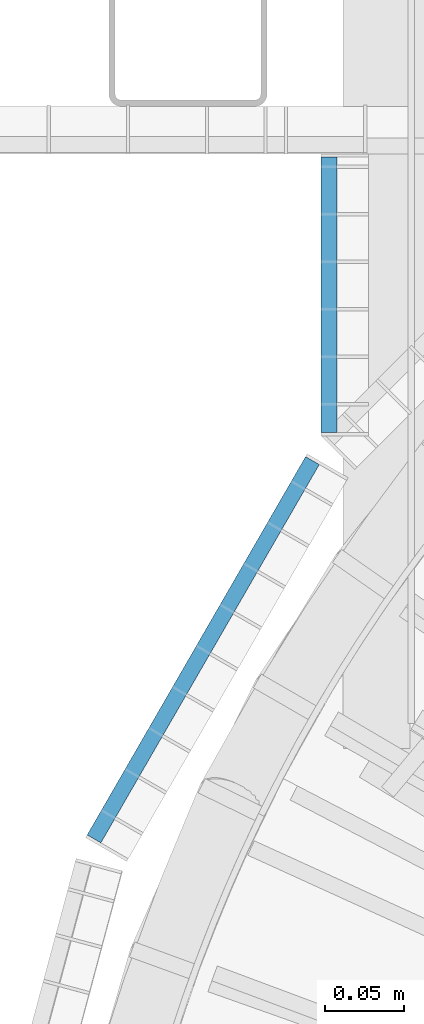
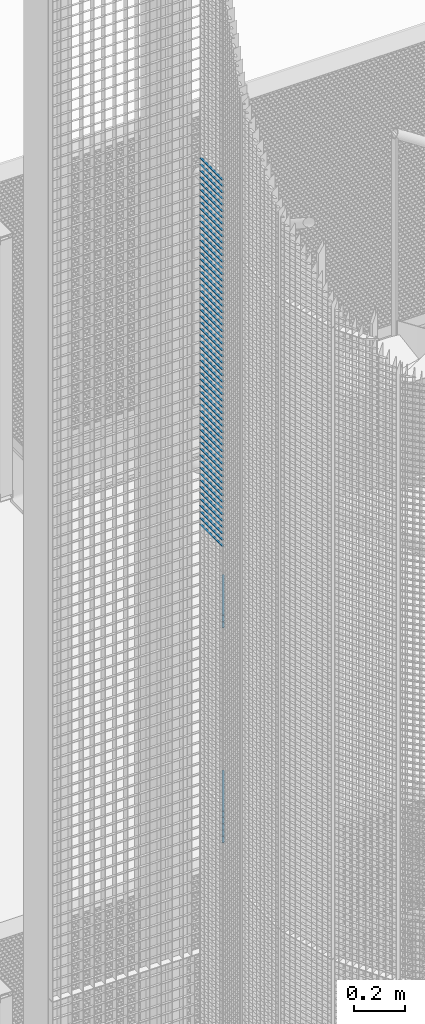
# One storey, part 193 of 1183: 68 beams, 2 elements without a shape of their own.
"""IFC2X3 building model written with IfcOpenShell, lengths in millimetres."""

from ifc_helpers import new_model, si_unit, frame, origin_with_axes, origin_2d_with_axis, place, context, subcontext, project, spatial, rectangle, extrude, material, type_object, element, aggregate, save


model = new_model("IFC2X3")

# Units and contexts
model_context = context("Model", 3, precision=1e-05, world=origin_with_axes())
body_context = subcontext(model_context, "Body", "Model", "MODEL_VIEW")
ifc_project = project(units=[si_unit("LENGTHUNIT", "METRE", prefix="MILLI"), si_unit("AREAUNIT", "SQUARE_METRE"), si_unit("VOLUMEUNIT", "CUBIC_METRE"), si_unit("MASSUNIT", "GRAM", prefix="KILO"), si_unit("TIMEUNIT", "SECOND"), si_unit("PLANEANGLEUNIT", "RADIAN"), si_unit("SOLIDANGLEUNIT", "STERADIAN"), si_unit("THERMODYNAMICTEMPERATUREUNIT", "DEGREE_CELSIUS"), si_unit("LUMINOUSINTENSITYUNIT", "LUMEN")], contexts=[model_context])

# Site, building, storey
site_placement = place(None, origin_with_axes())
site = spatial("IfcSite", under=ifc_project, at=site_placement, Name="Undefined", CompositionType="ELEMENT")
building_placement = place(site_placement, origin_with_axes())
building = spatial("IfcBuilding", under=site, at=building_placement, Name="Undefined", CompositionType="ELEMENT")
storey_placement = place(building_placement, origin_with_axes())
storey = spatial("IfcBuildingStorey", under=building, at=storey_placement, Name="Undefined", CompositionType="ELEMENT", Elevation=0.0)

# Assembly, beams
assembly_1_placement = place(storey_placement, origin_with_axes())
assembly_1 = element("IfcElementAssembly", 1, at=assembly_1_placement, inside=storey, Name="BORDURE", AssemblyPlace="NOTDEFINED", PredefinedType="NOTDEFINED")
ifc_material = material(Name="STEEL/S235JR")
beam_type = type_object("IfcBeamType", Name="PL2*10", PredefinedType="NOTDEFINED")
beam_1_placement = place(assembly_1_placement, frame((-895.30396491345, 676.24804453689, 12180.0), z_axis=(-0.866025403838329, 0.499999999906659, 0.0), x_axis=(-0.49999999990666, -0.866025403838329, 0.0)))
beam_1 = element("IfcBeam", 2, at=beam_1_placement, type_object=beam_type, material=ifc_material, Name="ENTRETOISE", context=body_context, shape_type="SweptSolid", body=[
    extrude(rectangle(XDim=2.0, YDim=10.0, at=origin_2d_with_axis()), frame((275.999999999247, 9.09494701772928e-13, 1.53210777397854e-14), z_axis=(-1.0, 0.0, 0.0), x_axis=(0.0, -1.0, 0.0)), (0.0, 0.0, 1.0), 276.0),
])
beam_2_placement = place(assembly_1_placement, frame((-895.303964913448, 676.248044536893, 13050.0), z_axis=(-0.866025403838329, 0.499999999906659, 0.0), x_axis=(-0.49999999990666, -0.866025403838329, 0.0)))
beam_2 = element("IfcBeam", 3, at=beam_2_placement, type_object=beam_type, material=ifc_material, Name="ENTRETOISE", context=body_context, shape_type="SweptSolid", body=[
    extrude(rectangle(XDim=2.0, YDim=10.0, at=origin_2d_with_axis()), frame((275.999999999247, 9.09494701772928e-13, 1.53210777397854e-14), z_axis=(-1.0, 0.0, 0.0), x_axis=(0.0, -1.0, 0.0)), (0.0, 0.0, 1.0), 276.0),
])
beam_3_placement = place(assembly_1_placement, frame((-895.30396491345, 676.24804453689, 12150.0), z_axis=(-0.866025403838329, 0.499999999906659, 0.0), x_axis=(-0.49999999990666, -0.866025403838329, 0.0)))
beam_3 = element("IfcBeam", 4, at=beam_3_placement, type_object=beam_type, material=ifc_material, Name="ENTRETOISE", context=body_context, shape_type="SweptSolid", body=[
    extrude(rectangle(XDim=2.0, YDim=10.0, at=origin_2d_with_axis()), frame((275.999999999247, 9.09494701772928e-13, 1.53210777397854e-14), z_axis=(-1.0, 0.0, 0.0), x_axis=(0.0, -1.0, 0.0)), (0.0, 0.0, 1.0), 276.0),
])
beam_4_placement = place(assembly_1_placement, frame((-895.30396491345, 676.24804453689, 12120.0), z_axis=(-0.866025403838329, 0.499999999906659, 0.0), x_axis=(-0.49999999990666, -0.866025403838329, 0.0)))
beam_4 = element("IfcBeam", 5, at=beam_4_placement, type_object=beam_type, material=ifc_material, Name="ENTRETOISE", context=body_context, shape_type="SweptSolid", body=[
    extrude(rectangle(XDim=2.0, YDim=10.0, at=origin_2d_with_axis()), frame((275.999999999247, 9.09494701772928e-13, 1.53210777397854e-14), z_axis=(-1.0, 0.0, 0.0), x_axis=(0.0, -1.0, 0.0)), (0.0, 0.0, 1.0), 276.0),
])
beam_5_placement = place(assembly_1_placement, frame((-895.303964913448, 676.248044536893, 13080.0), z_axis=(-0.866025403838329, 0.499999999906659, 0.0), x_axis=(-0.49999999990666, -0.866025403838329, 0.0)))
beam_5 = element("IfcBeam", 6, at=beam_5_placement, type_object=beam_type, material=ifc_material, Name="ENTRETOISE", context=body_context, shape_type="SweptSolid", body=[
    extrude(rectangle(XDim=2.0, YDim=10.0, at=origin_2d_with_axis()), frame((275.999999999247, 9.09494701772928e-13, 1.53210777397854e-14), z_axis=(-1.0, 0.0, 0.0), x_axis=(0.0, -1.0, 0.0)), (0.0, 0.0, 1.0), 276.0),
])
beam_6_placement = place(assembly_1_placement, frame((-895.30396491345, 676.24804453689, 12090.0), z_axis=(-0.866025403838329, 0.499999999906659, 0.0), x_axis=(-0.49999999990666, -0.866025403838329, 0.0)))
beam_6 = element("IfcBeam", 7, at=beam_6_placement, type_object=beam_type, material=ifc_material, Name="ENTRETOISE", context=body_context, shape_type="SweptSolid", body=[
    extrude(rectangle(XDim=2.0, YDim=10.0, at=origin_2d_with_axis()), frame((275.999999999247, 9.09494701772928e-13, 1.53210777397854e-14), z_axis=(-1.0, 0.0, 0.0), x_axis=(0.0, -1.0, 0.0)), (0.0, 0.0, 1.0), 276.0),
])
beam_7_placement = place(assembly_1_placement, frame((-895.30396491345, 676.24804453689, 12060.0), z_axis=(-0.866025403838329, 0.499999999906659, 0.0), x_axis=(-0.49999999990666, -0.866025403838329, 0.0)))
beam_7 = element("IfcBeam", 8, at=beam_7_placement, type_object=beam_type, material=ifc_material, Name="ENTRETOISE", context=body_context, shape_type="SweptSolid", body=[
    extrude(rectangle(XDim=2.0, YDim=10.0, at=origin_2d_with_axis()), frame((275.999999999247, 9.09494701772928e-13, 1.53210777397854e-14), z_axis=(-1.0, 0.0, 0.0), x_axis=(0.0, -1.0, 0.0)), (0.0, 0.0, 1.0), 276.0),
])
beam_8_placement = place(assembly_1_placement, frame((-895.303964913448, 676.248044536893, 13110.0), z_axis=(-0.866025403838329, 0.499999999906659, 0.0), x_axis=(-0.49999999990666, -0.866025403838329, 0.0)))
beam_8 = element("IfcBeam", 9, at=beam_8_placement, type_object=beam_type, material=ifc_material, Name="ENTRETOISE", context=body_context, shape_type="SweptSolid", body=[
    extrude(rectangle(XDim=2.0, YDim=10.0, at=origin_2d_with_axis()), frame((275.999999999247, 9.09494701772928e-13, 1.53210777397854e-14), z_axis=(-1.0, 0.0, 0.0), x_axis=(0.0, -1.0, 0.0)), (0.0, 0.0, 1.0), 276.0),
])
beam_9_placement = place(assembly_1_placement, frame((-895.30396491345, 676.248044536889, 12030.0), z_axis=(-0.866025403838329, 0.499999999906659, 0.0), x_axis=(-0.49999999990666, -0.866025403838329, 0.0)))
beam_9 = element("IfcBeam", 10, at=beam_9_placement, type_object=beam_type, material=ifc_material, Name="ENTRETOISE", context=body_context, shape_type="SweptSolid", body=[
    extrude(rectangle(XDim=2.0, YDim=10.0, at=origin_2d_with_axis()), frame((275.999999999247, 9.09494701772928e-13, 1.53210777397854e-14), z_axis=(-1.0, 0.0, 0.0), x_axis=(0.0, -1.0, 0.0)), (0.0, 0.0, 1.0), 276.0),
])
aggregate(assembly_1, [beam_1, beam_2, beam_3, beam_4, beam_5, beam_6, beam_7, beam_8, beam_9])

assembly_2_placement = place(storey_placement, origin_with_axes())
assembly_2 = element("IfcElementAssembly", 11, at=assembly_2_placement, inside=storey, Name="BORDURE", AssemblyPlace="NOTDEFINED", PredefinedType="NOTDEFINED")
beam_10_placement = place(assembly_2_placement, frame((-884.882567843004, 867.997017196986, 14970.0), z_axis=(-1.0, 0.0, 0.0), x_axis=(0.0, -1.0, 0.0)))
beam_10 = element("IfcBeam", 12, at=beam_10_placement, type_object=beam_type, material=ifc_material, Name="ENTRETOISE", context=body_context, shape_type="SweptSolid", body=[
    extrude(rectangle(XDim=2.0, YDim=10.0, at=origin_2d_with_axis()), frame((174.109999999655, 0.0, 0.0), z_axis=(-1.0, 0.0, 0.0), x_axis=(0.0, -1.0, 0.0)), (0.0, 0.0, 1.0), 174.11),
])
beam_11_placement = place(assembly_2_placement, frame((-884.882567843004, 867.997017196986, 14940.0), z_axis=(-1.0, 0.0, 0.0), x_axis=(0.0, -1.0, 0.0)))
beam_11 = element("IfcBeam", 13, at=beam_11_placement, type_object=beam_type, material=ifc_material, Name="ENTRETOISE", context=body_context, shape_type="SweptSolid", body=[
    extrude(rectangle(XDim=2.0, YDim=10.0, at=origin_2d_with_axis()), frame((174.109999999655, 0.0, 0.0), z_axis=(-1.0, 0.0, 0.0), x_axis=(0.0, -1.0, 0.0)), (0.0, 0.0, 1.0), 174.11),
])
beam_12_placement = place(assembly_2_placement, frame((-884.882567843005, 867.997017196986, 14910.0), z_axis=(-1.0, 0.0, 0.0), x_axis=(0.0, -1.0, 0.0)))
beam_12 = element("IfcBeam", 14, at=beam_12_placement, type_object=beam_type, material=ifc_material, Name="ENTRETOISE", context=body_context, shape_type="SweptSolid", body=[
    extrude(rectangle(XDim=2.0, YDim=10.0, at=origin_2d_with_axis()), frame((174.109999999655, 0.0, 0.0), z_axis=(-1.0, 0.0, 0.0), x_axis=(0.0, -1.0, 0.0)), (0.0, 0.0, 1.0), 174.11),
])
beam_13_placement = place(assembly_2_placement, frame((-884.882567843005, 867.997017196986, 14880.0), z_axis=(-1.0, 0.0, 0.0), x_axis=(0.0, -1.0, 0.0)))
beam_13 = element("IfcBeam", 15, at=beam_13_placement, type_object=beam_type, material=ifc_material, Name="ENTRETOISE", context=body_context, shape_type="SweptSolid", body=[
    extrude(rectangle(XDim=2.0, YDim=10.0, at=origin_2d_with_axis()), frame((174.109999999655, 0.0, 0.0), z_axis=(-1.0, 0.0, 0.0), x_axis=(0.0, -1.0, 0.0)), (0.0, 0.0, 1.0), 174.11),
])
beam_14_placement = place(assembly_2_placement, frame((-884.882567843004, 867.997017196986, 14850.0), z_axis=(-1.0, 0.0, 0.0), x_axis=(0.0, -1.0, 0.0)))
beam_14 = element("IfcBeam", 16, at=beam_14_placement, type_object=beam_type, material=ifc_material, Name="ENTRETOISE", context=body_context, shape_type="SweptSolid", body=[
    extrude(rectangle(XDim=2.0, YDim=10.0, at=origin_2d_with_axis()), frame((174.109999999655, 0.0, 0.0), z_axis=(-1.0, 0.0, 0.0), x_axis=(0.0, -1.0, 0.0)), (0.0, 0.0, 1.0), 174.11),
])
beam_15_placement = place(assembly_2_placement, frame((-884.882567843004, 867.997017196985, 14820.0), z_axis=(-1.0, 0.0, 0.0), x_axis=(0.0, -1.0, 0.0)))
beam_15 = element("IfcBeam", 17, at=beam_15_placement, type_object=beam_type, material=ifc_material, Name="ENTRETOISE", context=body_context, shape_type="SweptSolid", body=[
    extrude(rectangle(XDim=2.0, YDim=10.0, at=origin_2d_with_axis()), frame((174.109999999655, 0.0, 0.0), z_axis=(-1.0, 0.0, 0.0), x_axis=(0.0, -1.0, 0.0)), (0.0, 0.0, 1.0), 174.11),
])
beam_16_placement = place(assembly_2_placement, frame((-884.882567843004, 867.997017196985, 14790.0), z_axis=(-1.0, 0.0, 0.0), x_axis=(0.0, -1.0, 0.0)))
beam_16 = element("IfcBeam", 18, at=beam_16_placement, type_object=beam_type, material=ifc_material, Name="ENTRETOISE", context=body_context, shape_type="SweptSolid", body=[
    extrude(rectangle(XDim=2.0, YDim=10.0, at=origin_2d_with_axis()), frame((174.109999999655, 0.0, 0.0), z_axis=(-1.0, 0.0, 0.0), x_axis=(0.0, -1.0, 0.0)), (0.0, 0.0, 1.0), 174.11),
])
beam_17_placement = place(assembly_2_placement, frame((-884.882567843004, 867.997017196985, 14760.0), z_axis=(-1.0, 0.0, 0.0), x_axis=(0.0, -1.0, 0.0)))
beam_17 = element("IfcBeam", 19, at=beam_17_placement, type_object=beam_type, material=ifc_material, Name="ENTRETOISE", context=body_context, shape_type="SweptSolid", body=[
    extrude(rectangle(XDim=2.0, YDim=10.0, at=origin_2d_with_axis()), frame((174.109999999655, 0.0, 0.0), z_axis=(-1.0, 0.0, 0.0), x_axis=(0.0, -1.0, 0.0)), (0.0, 0.0, 1.0), 174.11),
])
beam_18_placement = place(assembly_2_placement, frame((-884.882567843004, 867.997017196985, 14730.0), z_axis=(-1.0, 0.0, 0.0), x_axis=(0.0, -1.0, 0.0)))
beam_18 = element("IfcBeam", 20, at=beam_18_placement, type_object=beam_type, material=ifc_material, Name="ENTRETOISE", context=body_context, shape_type="SweptSolid", body=[
    extrude(rectangle(XDim=2.0, YDim=10.0, at=origin_2d_with_axis()), frame((174.109999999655, 0.0, 0.0), z_axis=(-1.0, 0.0, 0.0), x_axis=(0.0, -1.0, 0.0)), (0.0, 0.0, 1.0), 174.11),
])
beam_19_placement = place(assembly_2_placement, frame((-884.882567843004, 867.997017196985, 14700.0), z_axis=(-1.0, 0.0, 0.0), x_axis=(0.0, -1.0, 0.0)))
beam_19 = element("IfcBeam", 21, at=beam_19_placement, type_object=beam_type, material=ifc_material, Name="ENTRETOISE", context=body_context, shape_type="SweptSolid", body=[
    extrude(rectangle(XDim=2.0, YDim=10.0, at=origin_2d_with_axis()), frame((174.109999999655, 0.0, 0.0), z_axis=(-1.0, 0.0, 0.0), x_axis=(0.0, -1.0, 0.0)), (0.0, 0.0, 1.0), 174.11),
])
beam_20_placement = place(assembly_2_placement, frame((-884.882567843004, 867.997017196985, 14670.0), z_axis=(-1.0, 0.0, 0.0), x_axis=(0.0, -1.0, 0.0)))
beam_20 = element("IfcBeam", 22, at=beam_20_placement, type_object=beam_type, material=ifc_material, Name="ENTRETOISE", context=body_context, shape_type="SweptSolid", body=[
    extrude(rectangle(XDim=2.0, YDim=10.0, at=origin_2d_with_axis()), frame((174.109999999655, 0.0, 0.0), z_axis=(-1.0, 0.0, 0.0), x_axis=(0.0, -1.0, 0.0)), (0.0, 0.0, 1.0), 174.11),
])
beam_21_placement = place(assembly_2_placement, frame((-884.882567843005, 867.997017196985, 14640.0), z_axis=(-1.0, 0.0, 0.0), x_axis=(0.0, -1.0, 0.0)))
beam_21 = element("IfcBeam", 23, at=beam_21_placement, type_object=beam_type, material=ifc_material, Name="ENTRETOISE", context=body_context, shape_type="SweptSolid", body=[
    extrude(rectangle(XDim=2.0, YDim=10.0, at=origin_2d_with_axis()), frame((174.109999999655, 0.0, 0.0), z_axis=(-1.0, 0.0, 0.0), x_axis=(0.0, -1.0, 0.0)), (0.0, 0.0, 1.0), 174.11),
])
beam_22_placement = place(assembly_2_placement, frame((-884.882567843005, 867.997017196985, 14610.0), z_axis=(-1.0, 0.0, 0.0), x_axis=(0.0, -1.0, 0.0)))
beam_22 = element("IfcBeam", 24, at=beam_22_placement, type_object=beam_type, material=ifc_material, Name="ENTRETOISE", context=body_context, shape_type="SweptSolid", body=[
    extrude(rectangle(XDim=2.0, YDim=10.0, at=origin_2d_with_axis()), frame((174.109999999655, 0.0, 0.0), z_axis=(-1.0, 0.0, 0.0), x_axis=(0.0, -1.0, 0.0)), (0.0, 0.0, 1.0), 174.11),
])
beam_23_placement = place(assembly_2_placement, frame((-884.882567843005, 867.997017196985, 14580.0), z_axis=(-1.0, 0.0, 0.0), x_axis=(0.0, -1.0, 0.0)))
beam_23 = element("IfcBeam", 25, at=beam_23_placement, type_object=beam_type, material=ifc_material, Name="ENTRETOISE", context=body_context, shape_type="SweptSolid", body=[
    extrude(rectangle(XDim=2.0, YDim=10.0, at=origin_2d_with_axis()), frame((174.109999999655, 0.0, 0.0), z_axis=(-1.0, 0.0, 0.0), x_axis=(0.0, -1.0, 0.0)), (0.0, 0.0, 1.0), 174.11),
])
beam_24_placement = place(assembly_2_placement, frame((-884.882567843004, 867.997017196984, 14550.0), z_axis=(-1.0, 0.0, 0.0), x_axis=(0.0, -1.0, 0.0)))
beam_24 = element("IfcBeam", 26, at=beam_24_placement, type_object=beam_type, material=ifc_material, Name="ENTRETOISE", context=body_context, shape_type="SweptSolid", body=[
    extrude(rectangle(XDim=2.0, YDim=10.0, at=origin_2d_with_axis()), frame((174.109999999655, 0.0, 0.0), z_axis=(-1.0, 0.0, 0.0), x_axis=(0.0, -1.0, 0.0)), (0.0, 0.0, 1.0), 174.11),
])
beam_25_placement = place(assembly_2_placement, frame((-884.882567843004, 867.997017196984, 14520.0), z_axis=(-1.0, 0.0, 0.0), x_axis=(0.0, -1.0, 0.0)))
beam_25 = element("IfcBeam", 27, at=beam_25_placement, type_object=beam_type, material=ifc_material, Name="ENTRETOISE", context=body_context, shape_type="SweptSolid", body=[
    extrude(rectangle(XDim=2.0, YDim=10.0, at=origin_2d_with_axis()), frame((174.109999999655, 0.0, 0.0), z_axis=(-1.0, 0.0, 0.0), x_axis=(0.0, -1.0, 0.0)), (0.0, 0.0, 1.0), 174.11),
])
beam_26_placement = place(assembly_2_placement, frame((-884.882567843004, 867.997017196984, 14490.0), z_axis=(-1.0, 0.0, 0.0), x_axis=(0.0, -1.0, 0.0)))
beam_26 = element("IfcBeam", 28, at=beam_26_placement, type_object=beam_type, material=ifc_material, Name="ENTRETOISE", context=body_context, shape_type="SweptSolid", body=[
    extrude(rectangle(XDim=2.0, YDim=10.0, at=origin_2d_with_axis()), frame((174.109999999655, 0.0, 0.0), z_axis=(-1.0, 0.0, 0.0), x_axis=(0.0, -1.0, 0.0)), (0.0, 0.0, 1.0), 174.11),
])
beam_27_placement = place(assembly_2_placement, frame((-884.882567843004, 867.997017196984, 14460.0), z_axis=(-1.0, 0.0, 0.0), x_axis=(0.0, -1.0, 0.0)))
beam_27 = element("IfcBeam", 29, at=beam_27_placement, type_object=beam_type, material=ifc_material, Name="ENTRETOISE", context=body_context, shape_type="SweptSolid", body=[
    extrude(rectangle(XDim=2.0, YDim=10.0, at=origin_2d_with_axis()), frame((174.109999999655, 0.0, 0.0), z_axis=(-1.0, 0.0, 0.0), x_axis=(0.0, -1.0, 0.0)), (0.0, 0.0, 1.0), 174.11),
])
beam_28_placement = place(assembly_2_placement, frame((-884.882567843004, 867.997017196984, 14430.0), z_axis=(-1.0, 0.0, 0.0), x_axis=(0.0, -1.0, 0.0)))
beam_28 = element("IfcBeam", 30, at=beam_28_placement, type_object=beam_type, material=ifc_material, Name="ENTRETOISE", context=body_context, shape_type="SweptSolid", body=[
    extrude(rectangle(XDim=2.0, YDim=10.0, at=origin_2d_with_axis()), frame((174.109999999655, 0.0, 0.0), z_axis=(-1.0, 0.0, 0.0), x_axis=(0.0, -1.0, 0.0)), (0.0, 0.0, 1.0), 174.11),
])
beam_29_placement = place(assembly_2_placement, frame((-884.882567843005, 867.997017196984, 14400.0), z_axis=(-1.0, 0.0, 0.0), x_axis=(0.0, -1.0, 0.0)))
beam_29 = element("IfcBeam", 31, at=beam_29_placement, type_object=beam_type, material=ifc_material, Name="ENTRETOISE", context=body_context, shape_type="SweptSolid", body=[
    extrude(rectangle(XDim=2.0, YDim=10.0, at=origin_2d_with_axis()), frame((174.109999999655, 0.0, 0.0), z_axis=(-1.0, 0.0, 0.0), x_axis=(0.0, -1.0, 0.0)), (0.0, 0.0, 1.0), 174.11),
])
beam_30_placement = place(assembly_2_placement, frame((-884.882567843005, 867.997017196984, 14370.0), z_axis=(-1.0, 0.0, 0.0), x_axis=(0.0, -1.0, 0.0)))
beam_30 = element("IfcBeam", 32, at=beam_30_placement, type_object=beam_type, material=ifc_material, Name="ENTRETOISE", context=body_context, shape_type="SweptSolid", body=[
    extrude(rectangle(XDim=2.0, YDim=10.0, at=origin_2d_with_axis()), frame((174.109999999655, 0.0, 0.0), z_axis=(-1.0, 0.0, 0.0), x_axis=(0.0, -1.0, 0.0)), (0.0, 0.0, 1.0), 174.11),
])
beam_31_placement = place(assembly_2_placement, frame((-884.882567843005, 867.997017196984, 14340.0), z_axis=(-1.0, 0.0, 0.0), x_axis=(0.0, -1.0, 0.0)))
beam_31 = element("IfcBeam", 33, at=beam_31_placement, type_object=beam_type, material=ifc_material, Name="ENTRETOISE", context=body_context, shape_type="SweptSolid", body=[
    extrude(rectangle(XDim=2.0, YDim=10.0, at=origin_2d_with_axis()), frame((174.109999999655, 0.0, 0.0), z_axis=(-1.0, 0.0, 0.0), x_axis=(0.0, -1.0, 0.0)), (0.0, 0.0, 1.0), 174.11),
])
beam_32_placement = place(assembly_2_placement, frame((-884.882567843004, 867.997017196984, 14310.0), z_axis=(-1.0, 0.0, 0.0), x_axis=(0.0, -1.0, 0.0)))
beam_32 = element("IfcBeam", 34, at=beam_32_placement, type_object=beam_type, material=ifc_material, Name="ENTRETOISE", context=body_context, shape_type="SweptSolid", body=[
    extrude(rectangle(XDim=2.0, YDim=10.0, at=origin_2d_with_axis()), frame((174.109999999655, 0.0, 0.0), z_axis=(-1.0, 0.0, 0.0), x_axis=(0.0, -1.0, 0.0)), (0.0, 0.0, 1.0), 174.11),
])
beam_33_placement = place(assembly_2_placement, frame((-884.882567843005, 867.997017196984, 14280.0), z_axis=(-1.0, 0.0, 0.0), x_axis=(0.0, -1.0, 0.0)))
beam_33 = element("IfcBeam", 35, at=beam_33_placement, type_object=beam_type, material=ifc_material, Name="ENTRETOISE", context=body_context, shape_type="SweptSolid", body=[
    extrude(rectangle(XDim=2.0, YDim=10.0, at=origin_2d_with_axis()), frame((174.109999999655, 0.0, 0.0), z_axis=(-1.0, 0.0, 0.0), x_axis=(0.0, -1.0, 0.0)), (0.0, 0.0, 1.0), 174.11),
])
beam_34_placement = place(assembly_2_placement, frame((-884.882567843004, 867.997017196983, 14250.0), z_axis=(-1.0, 0.0, 0.0), x_axis=(0.0, -1.0, 0.0)))
beam_34 = element("IfcBeam", 36, at=beam_34_placement, type_object=beam_type, material=ifc_material, Name="ENTRETOISE", context=body_context, shape_type="SweptSolid", body=[
    extrude(rectangle(XDim=2.0, YDim=10.0, at=origin_2d_with_axis()), frame((174.109999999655, 0.0, 0.0), z_axis=(-1.0, 0.0, 0.0), x_axis=(0.0, -1.0, 0.0)), (0.0, 0.0, 1.0), 174.11),
])
beam_35_placement = place(assembly_2_placement, frame((-884.882567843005, 867.997017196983, 14220.0), z_axis=(-1.0, 0.0, 0.0), x_axis=(0.0, -1.0, 0.0)))
beam_35 = element("IfcBeam", 37, at=beam_35_placement, type_object=beam_type, material=ifc_material, Name="ENTRETOISE", context=body_context, shape_type="SweptSolid", body=[
    extrude(rectangle(XDim=2.0, YDim=10.0, at=origin_2d_with_axis()), frame((174.109999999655, 0.0, 0.0), z_axis=(-1.0, 0.0, 0.0), x_axis=(0.0, -1.0, 0.0)), (0.0, 0.0, 1.0), 174.11),
])
beam_36_placement = place(assembly_2_placement, frame((-884.882567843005, 867.997017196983, 14190.0), z_axis=(-1.0, 0.0, 0.0), x_axis=(0.0, -1.0, 0.0)))
beam_36 = element("IfcBeam", 38, at=beam_36_placement, type_object=beam_type, material=ifc_material, Name="ENTRETOISE", context=body_context, shape_type="SweptSolid", body=[
    extrude(rectangle(XDim=2.0, YDim=10.0, at=origin_2d_with_axis()), frame((174.109999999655, 0.0, 0.0), z_axis=(-1.0, 0.0, 0.0), x_axis=(0.0, -1.0, 0.0)), (0.0, 0.0, 1.0), 174.11),
])
beam_37_placement = place(assembly_2_placement, frame((-884.882567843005, 867.997017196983, 14160.0), z_axis=(-1.0, 0.0, 0.0), x_axis=(0.0, -1.0, 0.0)))
beam_37 = element("IfcBeam", 39, at=beam_37_placement, type_object=beam_type, material=ifc_material, Name="ENTRETOISE", context=body_context, shape_type="SweptSolid", body=[
    extrude(rectangle(XDim=2.0, YDim=10.0, at=origin_2d_with_axis()), frame((174.109999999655, 0.0, 0.0), z_axis=(-1.0, 0.0, 0.0), x_axis=(0.0, -1.0, 0.0)), (0.0, 0.0, 1.0), 174.11),
])
beam_38_placement = place(assembly_2_placement, frame((-884.882567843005, 867.997017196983, 14130.0), z_axis=(-1.0, 0.0, 0.0), x_axis=(0.0, -1.0, 0.0)))
beam_38 = element("IfcBeam", 40, at=beam_38_placement, type_object=beam_type, material=ifc_material, Name="ENTRETOISE", context=body_context, shape_type="SweptSolid", body=[
    extrude(rectangle(XDim=2.0, YDim=10.0, at=origin_2d_with_axis()), frame((174.109999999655, 0.0, 0.0), z_axis=(-1.0, 0.0, 0.0), x_axis=(0.0, -1.0, 0.0)), (0.0, 0.0, 1.0), 174.11),
])
beam_39_placement = place(assembly_2_placement, frame((-884.882567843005, 867.997017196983, 14100.0), z_axis=(-1.0, 0.0, 0.0), x_axis=(0.0, -1.0, 0.0)))
beam_39 = element("IfcBeam", 41, at=beam_39_placement, type_object=beam_type, material=ifc_material, Name="ENTRETOISE", context=body_context, shape_type="SweptSolid", body=[
    extrude(rectangle(XDim=2.0, YDim=10.0, at=origin_2d_with_axis()), frame((174.109999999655, 0.0, 0.0), z_axis=(-1.0, 0.0, 0.0), x_axis=(0.0, -1.0, 0.0)), (0.0, 0.0, 1.0), 174.11),
])
beam_40_placement = place(assembly_2_placement, frame((-884.882567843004, 867.997017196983, 14070.0), z_axis=(-1.0, 0.0, 0.0), x_axis=(0.0, -1.0, 0.0)))
beam_40 = element("IfcBeam", 42, at=beam_40_placement, type_object=beam_type, material=ifc_material, Name="ENTRETOISE", context=body_context, shape_type="SweptSolid", body=[
    extrude(rectangle(XDim=2.0, YDim=10.0, at=origin_2d_with_axis()), frame((174.109999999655, 0.0, 0.0), z_axis=(-1.0, 0.0, 0.0), x_axis=(0.0, -1.0, 0.0)), (0.0, 0.0, 1.0), 174.11),
])
beam_41_placement = place(assembly_2_placement, frame((-884.882567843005, 867.997017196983, 14040.0), z_axis=(-1.0, 0.0, 0.0), x_axis=(0.0, -1.0, 0.0)))
beam_41 = element("IfcBeam", 43, at=beam_41_placement, type_object=beam_type, material=ifc_material, Name="ENTRETOISE", context=body_context, shape_type="SweptSolid", body=[
    extrude(rectangle(XDim=2.0, YDim=10.0, at=origin_2d_with_axis()), frame((174.109999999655, 0.0, 0.0), z_axis=(-1.0, 0.0, 0.0), x_axis=(0.0, -1.0, 0.0)), (0.0, 0.0, 1.0), 174.11),
])
beam_42_placement = place(assembly_2_placement, frame((-884.882567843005, 867.997017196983, 14010.0), z_axis=(-1.0, 0.0, 0.0), x_axis=(0.0, -1.0, 0.0)))
beam_42 = element("IfcBeam", 44, at=beam_42_placement, type_object=beam_type, material=ifc_material, Name="ENTRETOISE", context=body_context, shape_type="SweptSolid", body=[
    extrude(rectangle(XDim=2.0, YDim=10.0, at=origin_2d_with_axis()), frame((174.109999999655, 0.0, 0.0), z_axis=(-1.0, 0.0, 0.0), x_axis=(0.0, -1.0, 0.0)), (0.0, 0.0, 1.0), 174.11),
])
beam_43_placement = place(assembly_2_placement, frame((-884.882567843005, 867.997017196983, 13980.0), z_axis=(-1.0, 0.0, 0.0), x_axis=(0.0, -1.0, 0.0)))
beam_43 = element("IfcBeam", 45, at=beam_43_placement, type_object=beam_type, material=ifc_material, Name="ENTRETOISE", context=body_context, shape_type="SweptSolid", body=[
    extrude(rectangle(XDim=2.0, YDim=10.0, at=origin_2d_with_axis()), frame((174.109999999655, 0.0, 0.0), z_axis=(-1.0, 0.0, 0.0), x_axis=(0.0, -1.0, 0.0)), (0.0, 0.0, 1.0), 174.11),
])
beam_44_placement = place(assembly_2_placement, frame((-884.882567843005, 867.997017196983, 13950.0), z_axis=(-1.0, 0.0, 0.0), x_axis=(0.0, -1.0, 0.0)))
beam_44 = element("IfcBeam", 46, at=beam_44_placement, type_object=beam_type, material=ifc_material, Name="ENTRETOISE", context=body_context, shape_type="SweptSolid", body=[
    extrude(rectangle(XDim=2.0, YDim=10.0, at=origin_2d_with_axis()), frame((174.109999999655, 0.0, 0.0), z_axis=(-1.0, 0.0, 0.0), x_axis=(0.0, -1.0, 0.0)), (0.0, 0.0, 1.0), 174.11),
])
beam_45_placement = place(assembly_2_placement, frame((-884.882567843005, 867.997017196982, 13920.0), z_axis=(-1.0, 0.0, 0.0), x_axis=(0.0, -1.0, 0.0)))
beam_45 = element("IfcBeam", 47, at=beam_45_placement, type_object=beam_type, material=ifc_material, Name="ENTRETOISE", context=body_context, shape_type="SweptSolid", body=[
    extrude(rectangle(XDim=2.0, YDim=10.0, at=origin_2d_with_axis()), frame((174.109999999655, 0.0, 0.0), z_axis=(-1.0, 0.0, 0.0), x_axis=(0.0, -1.0, 0.0)), (0.0, 0.0, 1.0), 174.11),
])
beam_46_placement = place(assembly_2_placement, frame((-884.882567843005, 867.997017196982, 13890.0), z_axis=(-1.0, 0.0, 0.0), x_axis=(0.0, -1.0, 0.0)))
beam_46 = element("IfcBeam", 48, at=beam_46_placement, type_object=beam_type, material=ifc_material, Name="ENTRETOISE", context=body_context, shape_type="SweptSolid", body=[
    extrude(rectangle(XDim=2.0, YDim=10.0, at=origin_2d_with_axis()), frame((174.109999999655, 0.0, 0.0), z_axis=(-1.0, 0.0, 0.0), x_axis=(0.0, -1.0, 0.0)), (0.0, 0.0, 1.0), 174.11),
])
beam_47_placement = place(assembly_2_placement, frame((-884.882567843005, 867.997017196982, 13860.0), z_axis=(-1.0, 0.0, 0.0), x_axis=(0.0, -1.0, 0.0)))
beam_47 = element("IfcBeam", 49, at=beam_47_placement, type_object=beam_type, material=ifc_material, Name="ENTRETOISE", context=body_context, shape_type="SweptSolid", body=[
    extrude(rectangle(XDim=2.0, YDim=10.0, at=origin_2d_with_axis()), frame((174.109999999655, 0.0, 0.0), z_axis=(-1.0, 0.0, 0.0), x_axis=(0.0, -1.0, 0.0)), (0.0, 0.0, 1.0), 174.11),
])
beam_48_placement = place(assembly_2_placement, frame((-884.882567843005, 867.997017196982, 13830.0), z_axis=(-1.0, 0.0, 0.0), x_axis=(0.0, -1.0, 0.0)))
beam_48 = element("IfcBeam", 50, at=beam_48_placement, type_object=beam_type, material=ifc_material, Name="ENTRETOISE", context=body_context, shape_type="SweptSolid", body=[
    extrude(rectangle(XDim=2.0, YDim=10.0, at=origin_2d_with_axis()), frame((174.109999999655, 0.0, 0.0), z_axis=(-1.0, 0.0, 0.0), x_axis=(0.0, -1.0, 0.0)), (0.0, 0.0, 1.0), 174.11),
])
beam_49_placement = place(assembly_2_placement, frame((-884.882567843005, 867.997017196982, 13800.0), z_axis=(-1.0, 0.0, 0.0), x_axis=(0.0, -1.0, 0.0)))
beam_49 = element("IfcBeam", 51, at=beam_49_placement, type_object=beam_type, material=ifc_material, Name="ENTRETOISE", context=body_context, shape_type="SweptSolid", body=[
    extrude(rectangle(XDim=2.0, YDim=10.0, at=origin_2d_with_axis()), frame((174.109999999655, 0.0, 0.0), z_axis=(-1.0, 0.0, 0.0), x_axis=(0.0, -1.0, 0.0)), (0.0, 0.0, 1.0), 174.11),
])
beam_50_placement = place(assembly_2_placement, frame((-884.882567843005, 867.997017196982, 13770.0), z_axis=(-1.0, 0.0, 0.0), x_axis=(0.0, -1.0, 0.0)))
beam_50 = element("IfcBeam", 52, at=beam_50_placement, type_object=beam_type, material=ifc_material, Name="ENTRETOISE", context=body_context, shape_type="SweptSolid", body=[
    extrude(rectangle(XDim=2.0, YDim=10.0, at=origin_2d_with_axis()), frame((174.109999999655, 0.0, 0.0), z_axis=(-1.0, 0.0, 0.0), x_axis=(0.0, -1.0, 0.0)), (0.0, 0.0, 1.0), 174.11),
])
beam_51_placement = place(assembly_2_placement, frame((-884.882567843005, 867.997017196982, 13740.0), z_axis=(-1.0, 0.0, 0.0), x_axis=(0.0, -1.0, 0.0)))
beam_51 = element("IfcBeam", 53, at=beam_51_placement, type_object=beam_type, material=ifc_material, Name="ENTRETOISE", context=body_context, shape_type="SweptSolid", body=[
    extrude(rectangle(XDim=2.0, YDim=10.0, at=origin_2d_with_axis()), frame((174.109999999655, 0.0, 0.0), z_axis=(-1.0, 0.0, 0.0), x_axis=(0.0, -1.0, 0.0)), (0.0, 0.0, 1.0), 174.11),
])
beam_52_placement = place(assembly_2_placement, frame((-884.882567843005, 867.997017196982, 13710.0), z_axis=(-1.0, 0.0, 0.0), x_axis=(0.0, -1.0, 0.0)))
beam_52 = element("IfcBeam", 54, at=beam_52_placement, type_object=beam_type, material=ifc_material, Name="ENTRETOISE", context=body_context, shape_type="SweptSolid", body=[
    extrude(rectangle(XDim=2.0, YDim=10.0, at=origin_2d_with_axis()), frame((174.109999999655, 0.0, 0.0), z_axis=(-1.0, 0.0, 0.0), x_axis=(0.0, -1.0, 0.0)), (0.0, 0.0, 1.0), 174.11),
])
beam_53_placement = place(assembly_2_placement, frame((-884.882567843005, 867.997017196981, 13680.0), z_axis=(-1.0, 0.0, 0.0), x_axis=(0.0, -1.0, 0.0)))
beam_53 = element("IfcBeam", 55, at=beam_53_placement, type_object=beam_type, material=ifc_material, Name="ENTRETOISE", context=body_context, shape_type="SweptSolid", body=[
    extrude(rectangle(XDim=2.0, YDim=10.0, at=origin_2d_with_axis()), frame((174.109999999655, 0.0, 0.0), z_axis=(-1.0, 0.0, 0.0), x_axis=(0.0, -1.0, 0.0)), (0.0, 0.0, 1.0), 174.11),
])
beam_54_placement = place(assembly_2_placement, frame((-884.882567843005, 867.997017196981, 13650.0), z_axis=(-1.0, 0.0, 0.0), x_axis=(0.0, -1.0, 0.0)))
beam_54 = element("IfcBeam", 56, at=beam_54_placement, type_object=beam_type, material=ifc_material, Name="ENTRETOISE", context=body_context, shape_type="SweptSolid", body=[
    extrude(rectangle(XDim=2.0, YDim=10.0, at=origin_2d_with_axis()), frame((174.109999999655, 0.0, 0.0), z_axis=(-1.0, 0.0, 0.0), x_axis=(0.0, -1.0, 0.0)), (0.0, 0.0, 1.0), 174.11),
])
beam_55_placement = place(assembly_2_placement, frame((-884.882567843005, 867.997017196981, 13620.0), z_axis=(-1.0, 0.0, 0.0), x_axis=(0.0, -1.0, 0.0)))
beam_55 = element("IfcBeam", 57, at=beam_55_placement, type_object=beam_type, material=ifc_material, Name="ENTRETOISE", context=body_context, shape_type="SweptSolid", body=[
    extrude(rectangle(XDim=2.0, YDim=10.0, at=origin_2d_with_axis()), frame((174.109999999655, 0.0, 0.0), z_axis=(-1.0, 0.0, 0.0), x_axis=(0.0, -1.0, 0.0)), (0.0, 0.0, 1.0), 174.11),
])
beam_56_placement = place(assembly_2_placement, frame((-884.882567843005, 867.997017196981, 13590.0), z_axis=(-1.0, 0.0, 0.0), x_axis=(0.0, -1.0, 0.0)))
beam_56 = element("IfcBeam", 58, at=beam_56_placement, type_object=beam_type, material=ifc_material, Name="ENTRETOISE", context=body_context, shape_type="SweptSolid", body=[
    extrude(rectangle(XDim=2.0, YDim=10.0, at=origin_2d_with_axis()), frame((174.109999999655, 0.0, 0.0), z_axis=(-1.0, 0.0, 0.0), x_axis=(0.0, -1.0, 0.0)), (0.0, 0.0, 1.0), 174.11),
])
beam_57_placement = place(assembly_2_placement, frame((-884.882567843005, 867.997017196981, 13560.0), z_axis=(-1.0, 0.0, 0.0), x_axis=(0.0, -1.0, 0.0)))
beam_57 = element("IfcBeam", 59, at=beam_57_placement, type_object=beam_type, material=ifc_material, Name="ENTRETOISE", context=body_context, shape_type="SweptSolid", body=[
    extrude(rectangle(XDim=2.0, YDim=10.0, at=origin_2d_with_axis()), frame((174.109999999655, 0.0, 0.0), z_axis=(-1.0, 0.0, 0.0), x_axis=(0.0, -1.0, 0.0)), (0.0, 0.0, 1.0), 174.11),
])
beam_58_placement = place(assembly_2_placement, frame((-884.882567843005, 867.997017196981, 13530.0), z_axis=(-1.0, 0.0, 0.0), x_axis=(0.0, -1.0, 0.0)))
beam_58 = element("IfcBeam", 60, at=beam_58_placement, type_object=beam_type, material=ifc_material, Name="ENTRETOISE", context=body_context, shape_type="SweptSolid", body=[
    extrude(rectangle(XDim=2.0, YDim=10.0, at=origin_2d_with_axis()), frame((174.109999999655, 0.0, 0.0), z_axis=(-1.0, 0.0, 0.0), x_axis=(0.0, -1.0, 0.0)), (0.0, 0.0, 1.0), 174.11),
])
beam_59_placement = place(assembly_2_placement, frame((-884.882567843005, 867.997017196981, 13500.0), z_axis=(-1.0, 0.0, 0.0), x_axis=(0.0, -1.0, 0.0)))
beam_59 = element("IfcBeam", 61, at=beam_59_placement, type_object=beam_type, material=ifc_material, Name="ENTRETOISE", context=body_context, shape_type="SweptSolid", body=[
    extrude(rectangle(XDim=2.0, YDim=10.0, at=origin_2d_with_axis()), frame((174.109999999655, 0.0, 0.0), z_axis=(-1.0, 0.0, 0.0), x_axis=(0.0, -1.0, 0.0)), (0.0, 0.0, 1.0), 174.11),
])
beam_60_placement = place(assembly_2_placement, frame((-884.882567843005, 867.997017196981, 13470.0), z_axis=(-1.0, 0.0, 0.0), x_axis=(0.0, -1.0, 0.0)))
beam_60 = element("IfcBeam", 62, at=beam_60_placement, type_object=beam_type, material=ifc_material, Name="ENTRETOISE", context=body_context, shape_type="SweptSolid", body=[
    extrude(rectangle(XDim=2.0, YDim=10.0, at=origin_2d_with_axis()), frame((174.109999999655, 0.0, 0.0), z_axis=(-1.0, 0.0, 0.0), x_axis=(0.0, -1.0, 0.0)), (0.0, 0.0, 1.0), 174.11),
])
beam_61_placement = place(assembly_2_placement, frame((-884.882567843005, 867.997017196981, 13440.0), z_axis=(-1.0, 0.0, 0.0), x_axis=(0.0, -1.0, 0.0)))
beam_61 = element("IfcBeam", 63, at=beam_61_placement, type_object=beam_type, material=ifc_material, Name="ENTRETOISE", context=body_context, shape_type="SweptSolid", body=[
    extrude(rectangle(XDim=2.0, YDim=10.0, at=origin_2d_with_axis()), frame((174.109999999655, 0.0, 0.0), z_axis=(-1.0, 0.0, 0.0), x_axis=(0.0, -1.0, 0.0)), (0.0, 0.0, 1.0), 174.11),
])
beam_62_placement = place(assembly_2_placement, frame((-884.882567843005, 867.997017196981, 13410.0), z_axis=(-1.0, 0.0, 0.0), x_axis=(0.0, -1.0, 0.0)))
beam_62 = element("IfcBeam", 64, at=beam_62_placement, type_object=beam_type, material=ifc_material, Name="ENTRETOISE", context=body_context, shape_type="SweptSolid", body=[
    extrude(rectangle(XDim=2.0, YDim=10.0, at=origin_2d_with_axis()), frame((174.109999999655, 0.0, 0.0), z_axis=(-1.0, 0.0, 0.0), x_axis=(0.0, -1.0, 0.0)), (0.0, 0.0, 1.0), 174.11),
])
beam_63_placement = place(assembly_2_placement, frame((-884.882567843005, 867.99701719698, 13380.0), z_axis=(-1.0, 0.0, 0.0), x_axis=(0.0, -1.0, 0.0)))
beam_63 = element("IfcBeam", 65, at=beam_63_placement, type_object=beam_type, material=ifc_material, Name="ENTRETOISE", context=body_context, shape_type="SweptSolid", body=[
    extrude(rectangle(XDim=2.0, YDim=10.0, at=origin_2d_with_axis()), frame((174.109999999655, 0.0, 0.0), z_axis=(-1.0, 0.0, 0.0), x_axis=(0.0, -1.0, 0.0)), (0.0, 0.0, 1.0), 174.11),
])
beam_64_placement = place(assembly_2_placement, frame((-884.882567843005, 867.99701719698, 13350.0), z_axis=(-1.0, 0.0, 0.0), x_axis=(0.0, -1.0, 0.0)))
beam_64 = element("IfcBeam", 66, at=beam_64_placement, type_object=beam_type, material=ifc_material, Name="ENTRETOISE", context=body_context, shape_type="SweptSolid", body=[
    extrude(rectangle(XDim=2.0, YDim=10.0, at=origin_2d_with_axis()), frame((174.109999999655, 0.0, 0.0), z_axis=(-1.0, 0.0, 0.0), x_axis=(0.0, -1.0, 0.0)), (0.0, 0.0, 1.0), 174.11),
])
beam_65_placement = place(assembly_2_placement, frame((-884.882567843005, 867.99701719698, 13320.0), z_axis=(-1.0, 0.0, 0.0), x_axis=(0.0, -1.0, 0.0)))
beam_65 = element("IfcBeam", 67, at=beam_65_placement, type_object=beam_type, material=ifc_material, Name="ENTRETOISE", context=body_context, shape_type="SweptSolid", body=[
    extrude(rectangle(XDim=2.0, YDim=10.0, at=origin_2d_with_axis()), frame((174.109999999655, 0.0, 0.0), z_axis=(-1.0, 0.0, 0.0), x_axis=(0.0, -1.0, 0.0)), (0.0, 0.0, 1.0), 174.11),
])
beam_66_placement = place(assembly_2_placement, frame((-884.882567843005, 867.99701719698, 13290.0), z_axis=(-1.0, 0.0, 0.0), x_axis=(0.0, -1.0, 0.0)))
beam_66 = element("IfcBeam", 68, at=beam_66_placement, type_object=beam_type, material=ifc_material, Name="ENTRETOISE", context=body_context, shape_type="SweptSolid", body=[
    extrude(rectangle(XDim=2.0, YDim=10.0, at=origin_2d_with_axis()), frame((174.109999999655, 0.0, 0.0), z_axis=(-1.0, 0.0, 0.0), x_axis=(0.0, -1.0, 0.0)), (0.0, 0.0, 1.0), 174.11),
])
beam_67_placement = place(assembly_2_placement, frame((-884.882567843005, 867.99701719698, 13260.0), z_axis=(-1.0, 0.0, 0.0), x_axis=(0.0, -1.0, 0.0)))
beam_67 = element("IfcBeam", 69, at=beam_67_placement, type_object=beam_type, material=ifc_material, Name="ENTRETOISE", context=body_context, shape_type="SweptSolid", body=[
    extrude(rectangle(XDim=2.0, YDim=10.0, at=origin_2d_with_axis()), frame((174.109999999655, 0.0, 0.0), z_axis=(-1.0, 0.0, 0.0), x_axis=(0.0, -1.0, 0.0)), (0.0, 0.0, 1.0), 174.11),
])
beam_68_placement = place(assembly_2_placement, frame((-884.882567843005, 867.99701719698, 13230.0), z_axis=(-1.0, 0.0, 0.0), x_axis=(0.0, -1.0, 0.0)))
beam_68 = element("IfcBeam", 70, at=beam_68_placement, type_object=beam_type, material=ifc_material, Name="ENTRETOISE", context=body_context, shape_type="SweptSolid", body=[
    extrude(rectangle(XDim=2.0, YDim=10.0, at=origin_2d_with_axis()), frame((174.109999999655, 0.0, 0.0), z_axis=(-1.0, 0.0, 0.0), x_axis=(0.0, -1.0, 0.0)), (0.0, 0.0, 1.0), 174.11),
])
aggregate(assembly_2, [beam_10, beam_11, beam_12, beam_13, beam_14, beam_15, beam_16, beam_17, beam_18, beam_19, beam_20, beam_21, beam_22, beam_23, beam_24, beam_25, beam_26, beam_27, beam_28, beam_29, beam_30, beam_31, beam_32, beam_33, beam_34, beam_35, beam_36, beam_37, beam_38, beam_39, beam_40, beam_41, beam_42, beam_43, beam_44, beam_45, beam_46, beam_47, beam_48, beam_49, beam_50, beam_51, beam_52, beam_53, beam_54, beam_55, beam_56, beam_57, beam_58, beam_59, beam_60, beam_61, beam_62, beam_63, beam_64, beam_65, beam_66, beam_67, beam_68])

save(model, "model.ifc")
